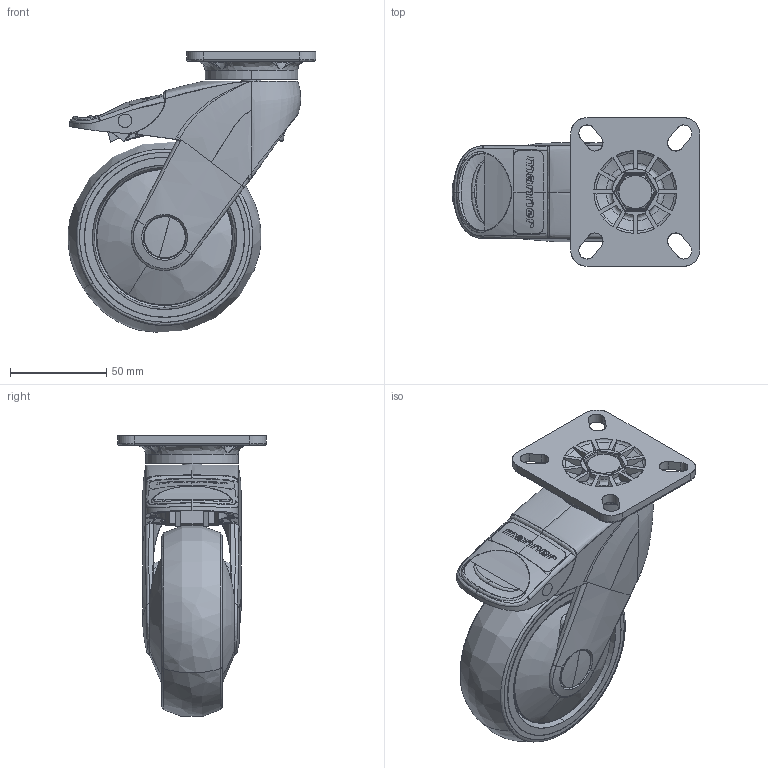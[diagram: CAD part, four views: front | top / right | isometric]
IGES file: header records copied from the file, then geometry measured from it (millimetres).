
Start section: SolidWorks IGES file using analytic representation for surfaces
Global section: file name: S:\Tyokansio\VL\301807_IGES.IGS; native system: SolidWorks 2011; preprocessor: SolidWorks 2011; author: VilleLa; date: 110622.100255; units: millimetre
Bounding box: 128.5 x 77 x 145.61 mm (x, y, z)
Surface area: 97775.9 mm2 (no closed solid volume)
Topology: 0 solids, 0 shells, 760 faces, 13120 edges, 13097 vertices
Faces by surface type: bspline 565, revolution 195
